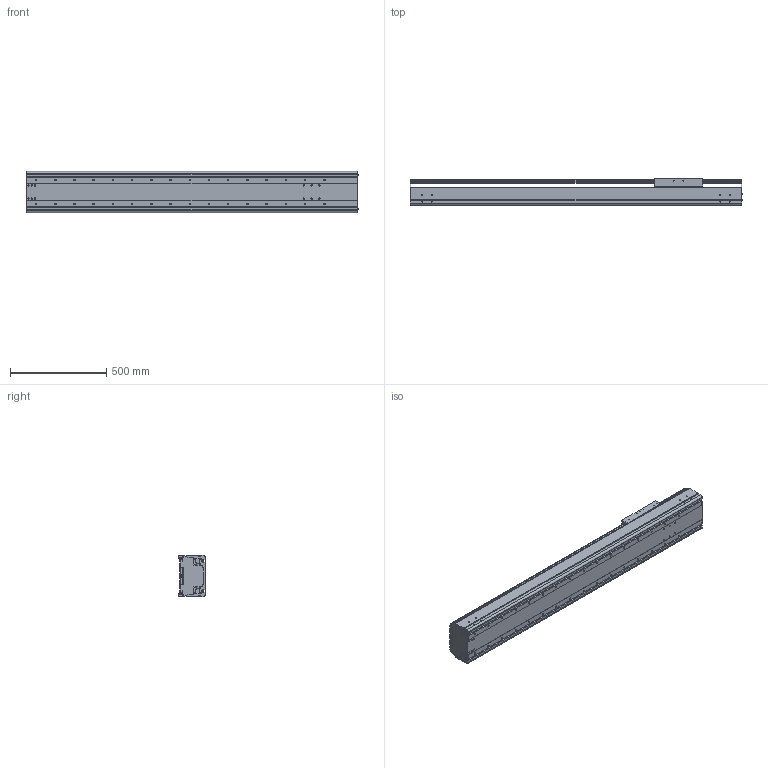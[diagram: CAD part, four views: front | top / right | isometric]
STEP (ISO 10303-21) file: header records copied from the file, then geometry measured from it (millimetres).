
FILE_DESCRIPTION((''),'2;1');
FILE_NAME('BE60J-ST-M_B-C0_IGS_PRT','2017-06-18T',(' '),(''),'PRO/ENGINEER BY PARAMETRIC TECHNOLOGY CORPORATION, 2015030','PRO/ENGINEER BY PARAMETRIC TECHNOLOGY CORPORATION, 2015030','');
FILE_SCHEMA(('CONFIG_CONTROL_DESIGN'));
Length unit declared in the file: millimetre
Products named in the file (1): BE60J-ST-M_B-C0_IGS_PRT
Bounding box: 1727.4 x 140 x 214 mm (x, y, z)
Volume: 13430221.6 mm3; surface area: 3579070.4 mm2
Topology: 2 solids, 28 shells, 1115 faces, 2947 edges, 1899 vertices
Faces by surface type: plane 529, cylinder 486, cone 52, sphere 24, torus 24
Entity records: 34839 total; most frequent: CARTESIAN_POINT 6472, DIRECTION 6080, ORIENTED_EDGE 5692, EDGE_CURVE 2894, AXIS2_PLACEMENT_3D 2180, VERTEX_POINT 1896, VECTOR 1720, LINE 1720
